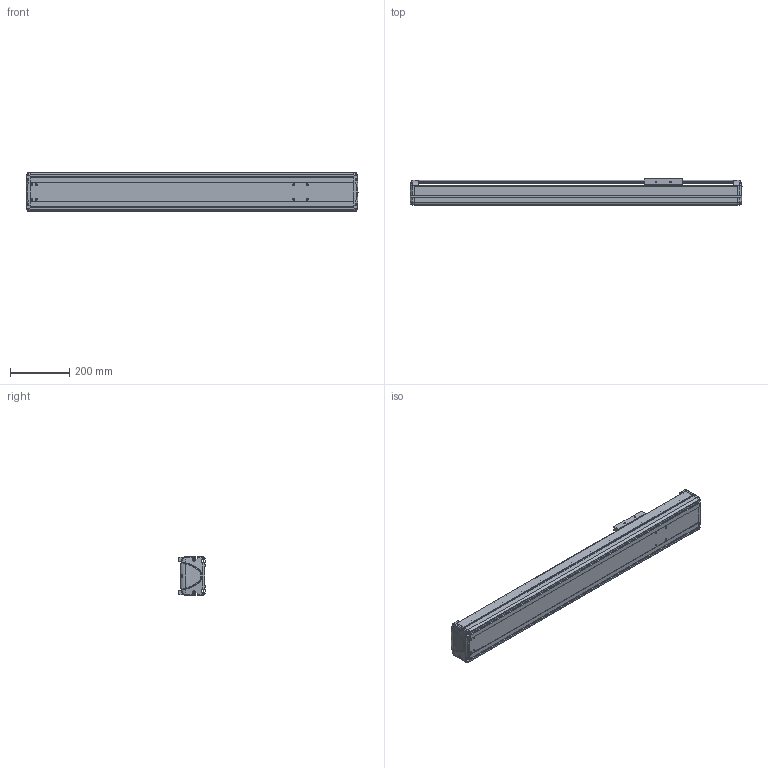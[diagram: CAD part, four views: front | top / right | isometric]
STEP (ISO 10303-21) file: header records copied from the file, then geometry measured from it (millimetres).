
FILE_DESCRIPTION((''),'2;1');
FILE_NAME('BE30E-ST-M_B-75_IGS_PRT','2017-06-17T',(' '),(''),'PRO/ENGINEER BY PARAMETRIC TECHNOLOGY CORPORATION, 2015030','PRO/ENGINEER BY PARAMETRIC TECHNOLOGY CORPORATION, 2015030','');
FILE_SCHEMA(('CONFIG_CONTROL_DESIGN'));
Length unit declared in the file: millimetre
Products named in the file (1): BE30E-ST-M_B-75_IGS_PRT
Bounding box: 1125 x 89.8 x 130 mm (x, y, z)
Volume: 3426667.6 mm3; surface area: 1353544.5 mm2
Topology: 3 solids, 84 shells, 1346 faces, 3609 edges, 2359 vertices
Faces by surface type: cylinder 607, plane 586, bspline 55, torus 42, cone 32, sphere 24
Entity records: 45138 total; most frequent: CARTESIAN_POINT 11330, DIRECTION 6974, ORIENTED_EDGE 6856, EDGE_CURVE 3589, AXIS2_PLACEMENT_3D 2522, VERTEX_POINT 2359, VECTOR 1930, LINE 1930
